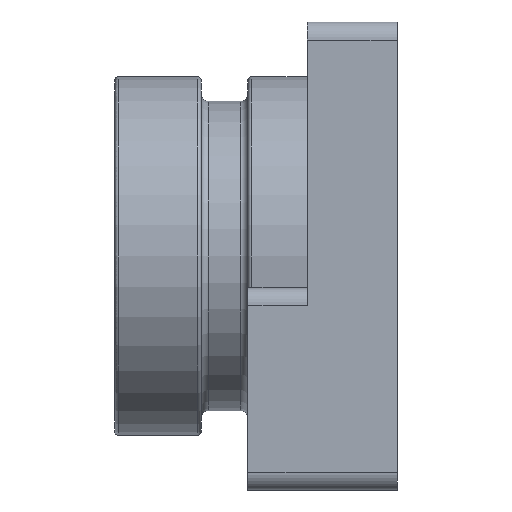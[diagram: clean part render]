
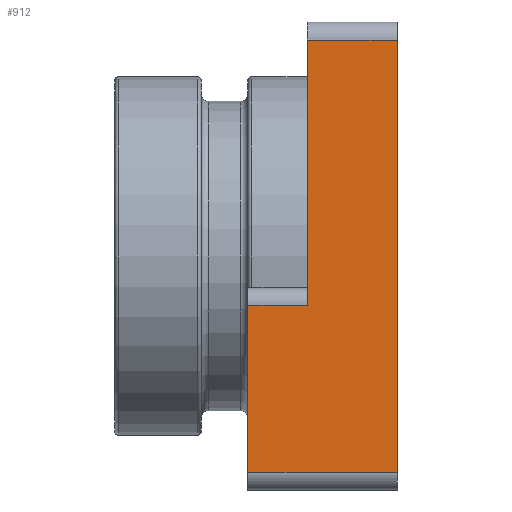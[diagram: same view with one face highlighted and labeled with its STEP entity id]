
A CAD part, left-side view. The second image highlights one B-rep face of the part: STEP entity #912.
In plain terms, the highlighted planar face has unit normal (-1, 0, 0).
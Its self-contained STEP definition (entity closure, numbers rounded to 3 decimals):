
#91 = ORIENTED_EDGE ( 'NONE', *, *, #2157, .T. ) ;
#93 = CARTESIAN_POINT ( 'NONE',  ( -22., -10.3, 13. ) ) ;
#99 = VECTOR ( 'NONE', #1656, 1000. ) ;
#134 = CARTESIAN_POINT ( 'NONE',  ( -22., -11.3, -2.75 ) ) ;
#192 = CARTESIAN_POINT ( 'NONE',  ( -22., -5.3, 12. ) ) ;
#207 = VERTEX_POINT ( 'NONE', #708 ) ;
#227 = EDGE_CURVE ( 'NONE', #816, #686, #2230, .T. ) ;
#232 = AXIS2_PLACEMENT_3D ( 'NONE', #826, #619, #644 ) ;
#293 = DIRECTION ( 'NONE',  ( 0., 0., 1. ) ) ;
#349 = DIRECTION ( 'NONE',  ( 0., 0., 1. ) ) ;
#363 = ORIENTED_EDGE ( 'NONE', *, *, #544, .F. ) ;
#544 = EDGE_CURVE ( 'NONE', #207, #1415, #2558, .T. ) ;
#594 = CARTESIAN_POINT ( 'NONE',  ( -22., -5.3, -13. ) ) ;
#613 = ORIENTED_EDGE ( 'NONE', *, *, #2662, .F. ) ;
#619 = DIRECTION ( 'NONE',  ( -1., 0., 0. ) ) ;
#644 = DIRECTION ( 'NONE',  ( 0., 0., 1. ) ) ;
#686 = VERTEX_POINT ( 'NONE', #2237 ) ;
#708 = CARTESIAN_POINT ( 'NONE',  ( -22., -5.3, -2.75 ) ) ;
#812 = LINE ( 'NONE', #1952, #1259 ) ;
#816 = VERTEX_POINT ( 'NONE', #1846 ) ;
#826 = CARTESIAN_POINT ( 'NONE',  ( -22., -11.3, 13. ) ) ;
#829 = ORIENTED_EDGE ( 'NONE', *, *, #227, .T. ) ;
#912 = ADVANCED_FACE ( 'NONE', ( #2757 ), #2811, .T. ) ;
#975 = CARTESIAN_POINT ( 'NONE',  ( -22., -2., 0. ) ) ;
#1067 = VECTOR ( 'NONE', #2403, 1000. ) ;
#1071 = VERTEX_POINT ( 'NONE', #1564 ) ;
#1138 = CARTESIAN_POINT ( 'NONE',  ( -22., -11.3, -12. ) ) ;
#1189 = VECTOR ( 'NONE', #349, 1000. ) ;
#1202 = DIRECTION ( 'NONE',  ( 0., 0., 1. ) ) ;
#1259 = VECTOR ( 'NONE', #2600, 1000. ) ;
#1314 = CARTESIAN_POINT ( 'NONE',  ( -22., -10.3, 12. ) ) ;
#1377 = EDGE_CURVE ( 'NONE', #1859, #1415, #812, .T. ) ;
#1415 = VERTEX_POINT ( 'NONE', #192 ) ;
#1554 = ORIENTED_EDGE ( 'NONE', *, *, #1377, .T. ) ;
#1564 = CARTESIAN_POINT ( 'NONE',  ( -22., -2., -2.75 ) ) ;
#1614 = LINE ( 'NONE', #93, #2105 ) ;
#1656 = DIRECTION ( 'NONE',  ( 0., 1., 0. ) ) ;
#1846 = CARTESIAN_POINT ( 'NONE',  ( -22., -2., -12. ) ) ;
#1859 = VERTEX_POINT ( 'NONE', #1314 ) ;
#1952 = CARTESIAN_POINT ( 'NONE',  ( -22., -11.3, 12. ) ) ;
#2064 = LINE ( 'NONE', #975, #2635 ) ;
#2105 = VECTOR ( 'NONE', #293, 1000. ) ;
#2157 = EDGE_CURVE ( 'NONE', #686, #1859, #1614, .T. ) ;
#2225 = EDGE_CURVE ( 'NONE', #207, #1071, #2461, .T. ) ;
#2230 = LINE ( 'NONE', #1138, #1067 ) ;
#2237 = CARTESIAN_POINT ( 'NONE',  ( -22., -10.3, -12. ) ) ;
#2277 = EDGE_LOOP ( 'NONE', ( #363, #2618, #613, #829, #91, #1554 ) ) ;
#2403 = DIRECTION ( 'NONE',  ( 0., -1., 0. ) ) ;
#2461 = LINE ( 'NONE', #134, #99 ) ;
#2558 = LINE ( 'NONE', #594, #1189 ) ;
#2600 = DIRECTION ( 'NONE',  ( 0., 1., 0. ) ) ;
#2618 = ORIENTED_EDGE ( 'NONE', *, *, #2225, .T. ) ;
#2635 = VECTOR ( 'NONE', #1202, 1000. ) ;
#2662 = EDGE_CURVE ( 'NONE', #816, #1071, #2064, .T. ) ;
#2757 = FACE_OUTER_BOUND ( 'NONE', #2277, .T. ) ;
#2811 = PLANE ( 'NONE',  #232 ) ;
